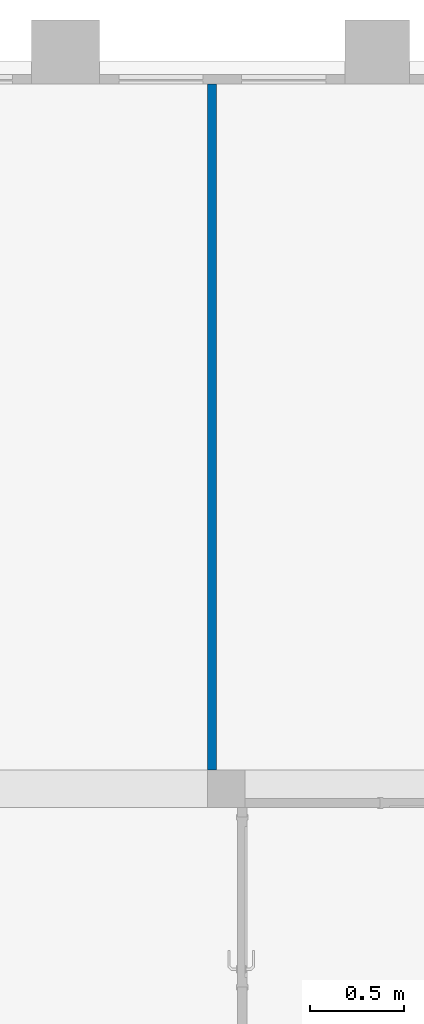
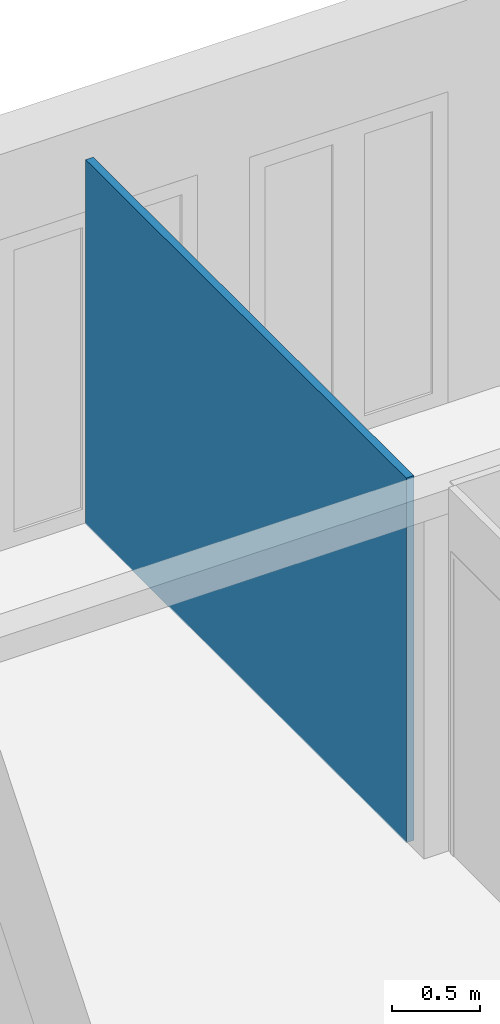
# One storey, part 6 of 12: 1 wall.
"""IFC2X3 building model written with IfcOpenShell, lengths in metres."""

import ifcopenshell
import ifcopenshell.guid

model = None  # the IFC model being written
_history = None  # IfcOwnerHistory: only IFC2X3 demands one
_inside = {}  # id of a spatial element -> (the spatial element, [elements in it])
_under = {}  # id of a project, library or spatial element -> (it, [spatial elements below it])
_declared = {}  # id of a project -> (the project, [libraries it declares])
_typed = {}  # id of a type object -> (the type object, [elements of that type])
_made_of = {}  # id of a material, layer set ... -> (it, [elements and type objects made of it])


def new_model(schema):
    """Start an empty IFC model of exactly this schema.

    Asked for "IFC4X3", IfcOpenShell would pick the latest addendum, in which some entities
    have other attributes; the version numbers below select the first issue.
    IFC2X3 requires an IfcOwnerHistory on every rooted entity: one is made here for all.
    """
    global model, _history
    if schema == "IFC4X3":
        model = ifcopenshell.file(schema_version=(4, 3, 0, 0))
    else:
        model = ifcopenshell.file(schema=schema)
    _inside.clear()
    _under.clear()
    _declared.clear()
    _typed.clear()
    _made_of.clear()
    _history = None
    if model.schema == "IFC2X3":
        org = make("IfcOrganization", Name="unknown")
        user = make(
            "IfcPersonAndOrganization",
            ThePerson=make("IfcPerson", FamilyName="unknown"),
            TheOrganization=org,
        )
        app = make(
            "IfcApplication",
            ApplicationDeveloper=org,
            Version="unknown",
            ApplicationFullName="unknown",
            ApplicationIdentifier="unknown",
        )
        _history = make(
            "IfcOwnerHistory",
            OwningUser=user,
            OwningApplication=app,
            ChangeAction="ADDED",
            CreationDate=0,
        )
    return model


def make(cls, **values):
    """One entity of the class cls with the attributes given. An attribute that is None is left unset."""
    return model.create_entity(
        cls, **{name: value for name, value in values.items() if value is not None}
    )


def entity(cls, *values):
    """Any entity or typed value of the class cls, its attributes in the order of the schema. None: left unset."""
    e = model.create_entity(cls)
    for i, value in enumerate(values):
        if value is not None:
            e[i] = value
    return e


def rooted(cls, **values):
    """An entity with a GlobalId (a new one), such as an element, a storey or a relation."""
    return make(cls, GlobalId=ifcopenshell.guid.new(), OwnerHistory=_history, **values)


def si_unit(unit_type, name, prefix=None):
    """IfcSIUnit, for example si_unit("LENGTHUNIT", "METRE", prefix="MILLI")."""
    return make("IfcSIUnit", UnitType=unit_type, Prefix=prefix, Name=name)


def converted_unit(unit_type, name, factor, base, dimensions=None, offset=None):
    """IfcConversionBasedUnit, such as the inch: factor (a typed value) times the base unit."""
    return make(
        "IfcConversionBasedUnit"
        if offset is None
        else "IfcConversionBasedUnitWithOffset",
        ConversionOffset=offset,
        Dimensions=None
        if dimensions is None
        else entity("IfcDimensionalExponents", *dimensions),
        UnitType=unit_type,
        Name=name,
        ConversionFactor=make(
            "IfcMeasureWithUnit", ValueComponent=factor, UnitComponent=base
        ),
    )


def derived_unit(unit_type, elements):
    """IfcDerivedUnit: a product of units, each with its exponent."""
    return make(
        "IfcDerivedUnit",
        Elements=[
            make("IfcDerivedUnitElement", Unit=unit, Exponent=power)
            for unit, power in elements
        ],
        UnitType=unit_type,
    )


def assignment(units):
    """IfcUnitAssignment: the units of a project."""
    return None if units is None else make("IfcUnitAssignment", Units=units)


def point(xyz):
    """IfcCartesianPoint."""
    return None if xyz is None else make("IfcCartesianPoint", Coordinates=xyz)


def direction(xyz):
    """IfcDirection."""
    return None if xyz is None else make("IfcDirection", DirectionRatios=xyz)


def frame(location, z_axis=None, x_axis=None):
    """IfcAxis2Placement3D, a coordinate frame: its origin and axes. An axis left out is left unset."""
    return make(
        "IfcAxis2Placement3D",
        Location=point(location),
        Axis=direction(z_axis),
        RefDirection=direction(x_axis),
    )


def frame_2d(location, x_axis=None):
    """IfcAxis2Placement2D, a coordinate frame in the plane: its origin and x axis."""
    return make(
        "IfcAxis2Placement2D", Location=point(location), RefDirection=direction(x_axis)
    )


def origin():
    """The frame at (0, 0, 0) with its axes left unset."""
    return frame((0.0, 0.0, 0.0))


def place(relative_to, where):
    """IfcLocalPlacement: puts the frame where relative to a parent placement (None: the world)."""
    return make(
        "IfcLocalPlacement", PlacementRelTo=relative_to, RelativePlacement=where
    )


def context(
    kind, dimensions, precision=None, world=None, true_north=None, identifier=None
):
    """IfcGeometricRepresentationContext, for example the 3D "Model" context."""
    return make(
        "IfcGeometricRepresentationContext",
        ContextIdentifier=identifier,
        ContextType=kind,
        CoordinateSpaceDimension=dimensions,
        Precision=precision,
        WorldCoordinateSystem=world,
        TrueNorth=true_north,
    )


def subcontext(parent, identifier, kind, view, scale=None):
    """IfcGeometricRepresentationSubContext, for example "Body" below "Model"."""
    return make(
        "IfcGeometricRepresentationSubContext",
        ContextIdentifier=identifier,
        ContextType=kind,
        ParentContext=parent,
        TargetScale=scale,
        TargetView=view,
    )


def project(units=None, contexts=None):
    """IfcProject with its units and contexts."""
    return rooted(
        "IfcProject",
        Name="project",
        RepresentationContexts=contexts,
        UnitsInContext=assignment(units),
    )


def spatial(cls, under=None, at=None, **own):
    """A site, building, storey or space (cls), placed at a placement, below another one or the project."""
    s = rooted(cls, ObjectPlacement=at, **own)
    if under is not None:
        _under.setdefault(under.id(), (under, []))[1].append(s)
    return s


def profile(cls, at=None, kind="AREA", **sizes):
    """A parametric profile (cls). Its sizes go by their IFC names, for example OverallWidth=200.0."""
    return make(cls, ProfileType=kind, Position=at, **sizes)


def rectangle(**sizes):
    """IfcRectangleProfileDef."""
    return profile("IfcRectangleProfileDef", **sizes)


def extrude(swept, where, along, depth):
    """IfcExtrudedAreaSolid: the profile swept, set in the frame where, extruded along a direction by depth."""
    return make(
        "IfcExtrudedAreaSolid",
        SweptArea=swept,
        Position=where,
        ExtrudedDirection=direction(along),
        Depth=depth,
    )


def shape(context_of_items, identifier, shape_type, items):
    """IfcShapeRepresentation: the items that make up one representation, for example the "Body"."""
    return make(
        "IfcShapeRepresentation",
        ContextOfItems=context_of_items,
        RepresentationIdentifier=identifier,
        RepresentationType=shape_type,
        Items=items,
    )


def material(Name=None, Category=None):
    """IfcMaterial."""
    return make("IfcMaterial", Name=Name, Category=Category)


def layer(
    of_material, thickness, ventilated=None, Name=None, Category=None, Priority=None
):
    """IfcMaterialLayer: one layer of a wall or slab, of a material (None: an air gap)."""
    return make(
        "IfcMaterialLayer",
        Material=of_material,
        LayerThickness=thickness,
        IsVentilated=ventilated,
        Name=Name,
        Category=Category,
        Priority=Priority,
    )


def layer_set(layers, Name=None):
    """IfcMaterialLayerSet."""
    return make("IfcMaterialLayerSet", MaterialLayers=layers, LayerSetName=Name)


def layer_usage(for_layer_set, set_direction, sense, offset, extent=None):
    """IfcMaterialLayerSetUsage: how a layer set lies in its element."""
    return make(
        "IfcMaterialLayerSetUsage",
        ForLayerSet=for_layer_set,
        LayerSetDirection=set_direction,
        DirectionSense=sense,
        OffsetFromReferenceLine=offset,
        ReferenceExtent=extent,
    )


def made_of(thing, what):
    """Note that an element or type object is made of a material, layer set ...; save() writes the relation."""
    if what is not None:
        _made_of.setdefault(what.id(), (what, []))[1].append(thing)
    return thing


def type_object(cls, material=None, **own):
    """A type object (cls), such as IfcWallType, which elements share."""
    return made_of(rooted(cls, **own), material)


def element(
    cls,
    number,
    at=None,
    inside=None,
    cuts=None,
    type_object=None,
    material=None,
    context=None,
    identifier="Body",
    shape_type=None,
    held_by="IfcProductDefinitionShape",
    body=None,
    shapes=None,
    **own,
):
    """One element of the class cls, such as IfcWall. Its Tag is "e" and its number.

    at: its placement. inside: the storey or other place that contains it. cuts: it is an
    opening in that element (IfcRelVoidsElement). A single representation is given by context,
    identifier, shape_type and body (its items); several are given by shapes. held_by: the class
    of the entity that holds the representations. save() writes the other relations.
    """
    e = rooted(cls, Tag="e%d" % number, ObjectPlacement=at, **own)
    if body is not None:
        shapes = [shape(context, identifier, shape_type, body)]
    if shapes is not None:
        e.Representation = make(held_by, Representations=shapes)
    if inside is not None:
        _inside.setdefault(inside.id(), (inside, []))[1].append(e)
    if cuts is not None:
        rooted(
            "IfcRelVoidsElement", RelatingBuildingElement=cuts, RelatedOpeningElement=e
        )
    if type_object is not None:
        _typed.setdefault(type_object.id(), (type_object, []))[1].append(e)
    return made_of(e, material)


def aggregate(whole, parts):
    """IfcRelAggregates: a whole, such as a stair, and the parts it consists of."""
    return rooted("IfcRelAggregates", RelatingObject=whole, RelatedObjects=parts)


def save(model, path):
    """Write the relations noted so far, then the file.

    IfcRelAggregates (storeys below a building ...), IfcRelContainedInSpatialStructure (elements
    in a storey), IfcRelDefinesByType, IfcRelAssociatesMaterial and IfcRelDeclares: one each for
    every whole, place, type object, material and project.
    """
    for whole, parts in _under.values():
        aggregate(whole, parts)
    for where, things in _inside.values():
        rooted(
            "IfcRelContainedInSpatialStructure",
            RelatedElements=things,
            RelatingStructure=where,
        )
    for kind, things in _typed.values():
        rooted("IfcRelDefinesByType", RelatedObjects=things, RelatingType=kind)
    for what, things in _made_of.values():
        rooted("IfcRelAssociatesMaterial", RelatedObjects=things, RelatingMaterial=what)
    for by, libraries in _declared.values():
        rooted("IfcRelDeclares", RelatingContext=by, RelatedDefinitions=libraries)
    model.write(path)


model = new_model("IFC2X3")

# Units and contexts
model_context = context("Model", 3, precision=1e-05, world=origin(), true_north=direction((6.12303176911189e-17, 1.0)))
context_of_model = context(None, 3, precision=1e-05, world=origin(), true_north=direction((6.12303176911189e-17, 1.0)))
body_context = subcontext(model_context, "Body", "Model", "MODEL_VIEW")
ifc_project = project(units=[si_unit("LENGTHUNIT", "METRE"), si_unit("AREAUNIT", "SQUARE_METRE"), si_unit("VOLUMEUNIT", "CUBIC_METRE"), converted_unit("PLANEANGLEUNIT", "DEGREE", entity("IfcRatioMeasure", 0.0174532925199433), si_unit("PLANEANGLEUNIT", "RADIAN"), dimensions=[0, 0, 0, 0, 0, 0, 0]), si_unit("MASSUNIT", "GRAM", prefix="KILO"), si_unit("TIMEUNIT", "SECOND"), si_unit("FREQUENCYUNIT", "HERTZ"), si_unit("THERMODYNAMICTEMPERATUREUNIT", "DEGREE_CELSIUS"), derived_unit("THERMALTRANSMITTANCEUNIT", [(si_unit("MASSUNIT", "GRAM", prefix="KILO"), 1), (si_unit("THERMODYNAMICTEMPERATUREUNIT", "KELVIN"), -1), (si_unit("TIMEUNIT", "SECOND"), -3)]), derived_unit("VOLUMETRICFLOWRATEUNIT", [(si_unit("LENGTHUNIT", "METRE"), 3), (si_unit("TIMEUNIT", "SECOND"), -1)]), si_unit("ELECTRICCURRENTUNIT", "AMPERE"), si_unit("ELECTRICVOLTAGEUNIT", "VOLT"), si_unit("POWERUNIT", "WATT"), si_unit("FORCEUNIT", "NEWTON", prefix="KILO"), si_unit("ILLUMINANCEUNIT", "LUX"), si_unit("LUMINOUSFLUXUNIT", "LUMEN"), si_unit("LUMINOUSINTENSITYUNIT", "CANDELA"), derived_unit("USERDEFINED", [(si_unit("MASSUNIT", "GRAM", prefix="KILO"), -1), (si_unit("LENGTHUNIT", "METRE"), -2), (si_unit("TIMEUNIT", "SECOND"), 3), (si_unit("LUMINOUSFLUXUNIT", "LUMEN"), 1)]), derived_unit("LINEARVELOCITYUNIT", [(si_unit("LENGTHUNIT", "METRE"), 1), (si_unit("TIMEUNIT", "SECOND"), -1)]), si_unit("PRESSUREUNIT", "PASCAL"), derived_unit("USERDEFINED", [(si_unit("LENGTHUNIT", "METRE"), -2), (si_unit("MASSUNIT", "GRAM", prefix="KILO"), 1), (si_unit("TIMEUNIT", "SECOND"), -2)])], contexts=[model_context, context_of_model])

# Site, building, storey
site_placement = place(None, origin())
site = spatial("IfcSite", under=ifc_project, at=site_placement, Name="Surface", CompositionType="ELEMENT")
building_placement = place(site_placement, origin())
building = spatial("IfcBuilding", under=site, at=building_placement, CompositionType="ELEMENT")
storey_placement = place(building_placement, origin())
storey = spatial("IfcBuildingStorey", under=building, at=storey_placement, Name="Rez de chaussée", CompositionType="ELEMENT", Elevation=0.0)

# Wall
ifc_material = material(Name="Maçonnerie - Isolant(1)")
ifc_layer = layer(ifc_material, 0.05)
ifc_layer_set = layer_set([ifc_layer], Name="Mur de base:Int. plâtre 50 mm")
ifc_layer_usage = layer_usage(ifc_layer_set, "AXIS2", "NEGATIVE", 0.025)
wall_type = type_object("IfcWallType", Name="Mur de base:Int. plâtre 50 mm", PredefinedType="STANDARD", material=ifc_layer_set)
wall_placement = place(storey_placement, frame((-1.78108881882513, 1.71425578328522, -0.00999999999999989), z_axis=(0.0, 0.0, 1.0), x_axis=(0.0, 1.0, 0.0)))
element("IfcWallStandardCase", 1, at=wall_placement, inside=storey, type_object=wall_type, material=ifc_layer_usage, Name="Mur de base:Int. plâtre 50 mm", ObjectType="Mur de base:Int. plâtre 50 mm", context=body_context, shape_type="SweptSolid", body=[
    extrude(rectangle(XDim=3.63, YDim=0.05, at=frame_2d((1.815, 0.0), x_axis=(-1.0, 0.0))), origin(), (0.0, 0.0, 1.0), 2.52),
])

save(model, "model.ifc")
